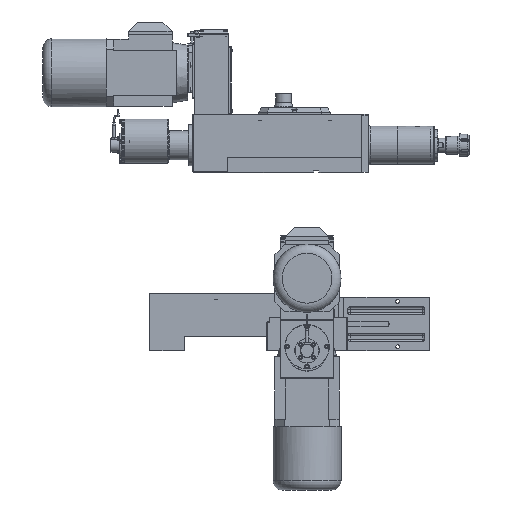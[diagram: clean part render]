
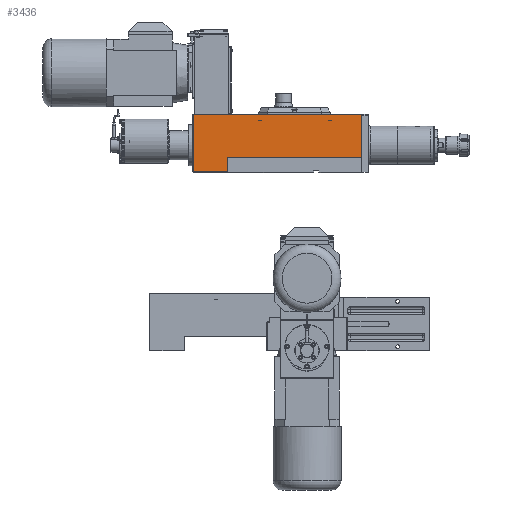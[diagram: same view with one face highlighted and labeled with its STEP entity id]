
A CAD part, front view. The second image highlights one B-rep face of the part: STEP entity #3436.
In plain terms, the highlighted planar face has unit normal (0, -1, 0).
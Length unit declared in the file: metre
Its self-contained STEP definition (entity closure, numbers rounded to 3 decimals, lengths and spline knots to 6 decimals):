
#3436 = ADVANCED_FACE( '', ( #5511 ), #5512, .T. );
#5511 = FACE_OUTER_BOUND( '', #8427, .T. );
#5512 = PLANE( '', #8428 );
#8427 = EDGE_LOOP( '', ( #14916, #14917, #14918, #14919, #14920, #14921 ) );
#8428 = AXIS2_PLACEMENT_3D( '', #14922, #14923, #14924 );
#14916 = ORIENTED_EDGE( '', *, *, #18941, .F. );
#14917 = ORIENTED_EDGE( '', *, *, #18980, .F. );
#14918 = ORIENTED_EDGE( '', *, *, #18932, .F. );
#14919 = ORIENTED_EDGE( '', *, *, #18937, .F. );
#14920 = ORIENTED_EDGE( '', *, *, #18975, .T. );
#14921 = ORIENTED_EDGE( '', *, *, #18942, .T. );
#14922 = CARTESIAN_POINT( '', ( 0.025, -0.019444, 0. ) );
#14923 = DIRECTION( '', ( 0., -1., 0. ) );
#14924 = DIRECTION( '', ( 0., 0., -1. ) );
#18932 = EDGE_CURVE( '', #22025, #22061, #22064, .T. );
#18937 = EDGE_CURVE( '', #22068, #22025, #22070, .T. );
#18941 = EDGE_CURVE( '', #22076, #22071, #22078, .T. );
#18942 = EDGE_CURVE( '', #22079, #22071, #22080, .T. );
#18975 = EDGE_CURVE( '', #22068, #22079, #22134, .T. );
#18980 = EDGE_CURVE( '', #22061, #22076, #22140, .T. );
#22025 = VERTEX_POINT( '', #27743 );
#22061 = VERTEX_POINT( '', #27799 );
#22064 = LINE( '', #27804, #27805 );
#22068 = VERTEX_POINT( '', #27812 );
#22070 = LINE( '', #27815, #27816 );
#22071 = VERTEX_POINT( '', #27817 );
#22076 = VERTEX_POINT( '', #27824 );
#22078 = LINE( '', #27827, #27828 );
#22079 = VERTEX_POINT( '', #27829 );
#22080 = LINE( '', #27830, #27831 );
#22134 = LINE( '', #27908, #27909 );
#22140 = LINE( '', #27918, #27919 );
#27743 = CARTESIAN_POINT( '', ( -0.3465, -0.019444, 0.0005 ) );
#27799 = CARTESIAN_POINT( '', ( -0.3465, -0.019444, 0.1265 ) );
#27804 = CARTESIAN_POINT( '', ( -0.3465, -0.019444, 0. ) );
#27805 = VECTOR( '', #32787, 1. );
#27812 = CARTESIAN_POINT( '', ( -0.271, -0.019444, 0.0005 ) );
#27815 = CARTESIAN_POINT( '', ( -0.068, -0.019444, 0.0005 ) );
#27816 = VECTOR( '', #32792, 1. );
#27817 = CARTESIAN_POINT( '', ( 0.0245, -0.019444, 0.032 ) );
#27824 = CARTESIAN_POINT( '', ( 0.0245, -0.019444, 0.1265 ) );
#27827 = CARTESIAN_POINT( '', ( 0.0245, -0.019444, 0. ) );
#27828 = VECTOR( '', #32796, 1. );
#27829 = CARTESIAN_POINT( '', ( -0.271, -0.019444, 0.032 ) );
#27830 = CARTESIAN_POINT( '', ( -0.049, -0.019444, 0.032 ) );
#27831 = VECTOR( '', #32797, 1. );
#27908 = CARTESIAN_POINT( '', ( -0.271, -0.019444, 0. ) );
#27909 = VECTOR( '', #32848, 1. );
#27918 = CARTESIAN_POINT( '', ( -0.068, -0.019444, 0.1265 ) );
#27919 = VECTOR( '', #32855, 1. );
#32787 = DIRECTION( '', ( 0., 0., 1. ) );
#32792 = DIRECTION( '', ( -1., 0., 0. ) );
#32796 = DIRECTION( '', ( 0., 0., -1. ) );
#32797 = DIRECTION( '', ( 1., 0., 0. ) );
#32848 = DIRECTION( '', ( 0., 0., 1. ) );
#32855 = DIRECTION( '', ( 1., 0., 0. ) );
